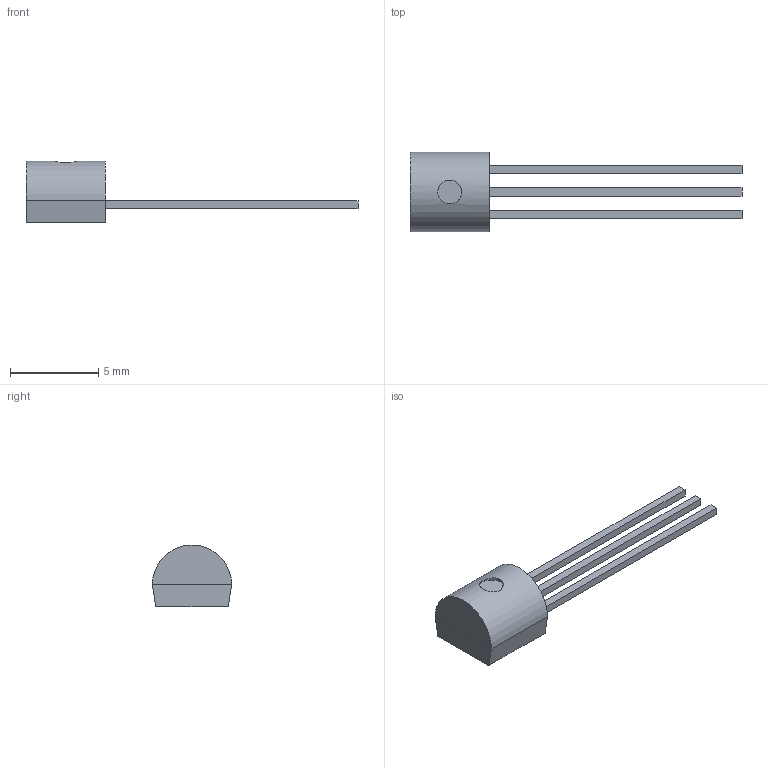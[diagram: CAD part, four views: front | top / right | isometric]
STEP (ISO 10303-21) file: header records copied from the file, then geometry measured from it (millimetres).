
FILE_DESCRIPTION(('HOOPS Exchange Step'),'2;1');
FILE_NAME('C:\Users\JSCJ\AppData\Local\Packages\Shapr3D.Shapr3D_dvv5p1vgwv6mp\TempState\export\temp_export','2025-12-04T11:19:01+08:00',('JSCJ'),('Shapr3D Limited'),'HOOPS Exchange 2025.7','Shapr3D','Authorized');
FILE_SCHEMA( ('AP242_MANAGED_MODEL_BASED_3D_ENGINEERING_MIM_LF {1 0 10303 442 1 1 4}') );
Length unit declared in the file: millimetre
Products named in the file (1): root
Bounding box: 18.8 x 4.5 x 3.5 mm (x, y, z)
Volume: 68.7 mm3; surface area: 210.5 mm2
Topology: 5 solids, 5 shells, 49 faces, 105 edges, 70 vertices
Faces by surface type: plane 47, cylinder 2
Full cylindrical faces by diameter (mm): 1.35 x1
Entity records: 1429 total; most frequent: CARTESIAN_POINT 289, ORIENTED_EDGE 210, DIRECTION 209, EDGE_CURVE 105, VECTOR 101, LINE 101, VERTEX_POINT 70, AXIS2_PLACEMENT_3D 54
